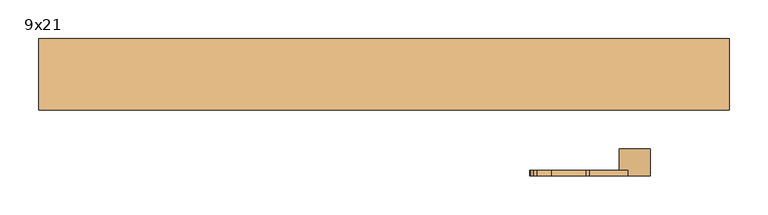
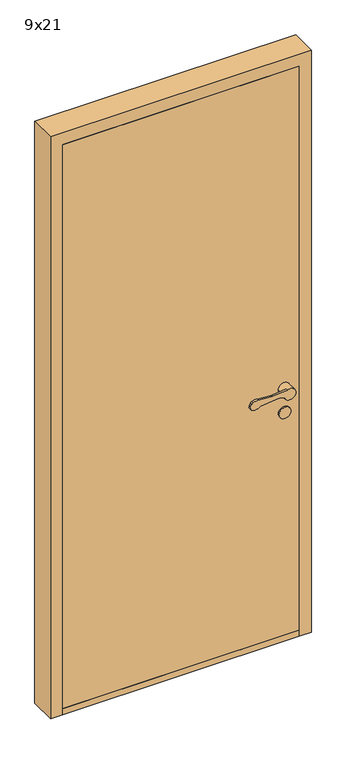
"""IFC4 building model written with IfcOpenShell, lengths in millimetres: door geometry, Innerdør Slett (Diplomat) : 9x21."""

from ifc_helpers import new_model, si_unit, point, frame, frame_2d, origin, origin_with_axes, place, context, project, spatial, polyline, circle_curve, trimmed, segment, composite_curve, outline, extrude, source, transform, mapped, element, save
from ifc_brep_helpers import plane_surface, cylinder_surface, revolved_surface, advanced_brep


def door_9x21_24ee06e7(model_context):
    return source(origin(), model_context, "Body", "SolidModel", [
        advanced_brep(
        [(343.9611305, 70.0, 949.1175955), (338.8520664, 70.0, 949.9496913), (276.0476109, 70.0, 943.6260011), (246.721536, 70.0, 938.7393398), (241.8691983, 70.0, 951.8913379), (245.505009, 70.0, 959.9624074), (250.3175669, 70.0, 964.8810513), (268.8963175, 70.0, 967.2639242), (313.6202158, 70.0, 964.1804415), (318.6891233, 70.0, 964.26032), (367.2687793, 70.0, 969.1517356), (396.379633, 70.0, 951.3474568), (358.3841161, 70.0, 942.6204086), (318.6891233, 62.8915284, 964.26032), (313.6202158, 62.8915284, 964.1804415), (268.8963175, 62.8915284, 967.2639242), (250.3175669, 62.8915284, 964.8810513), (245.505009, 62.8915284, 959.9624074), (241.8691983, 62.8915284, 951.8913379), (246.721536, 62.8915284, 938.7393398), (276.0476109, 62.8915284, 943.6260011), (338.8520664, 62.8915284, 949.9496913), (343.9611305, 62.8915284, 949.1175955), (358.3841161, 62.8915284, 942.6204086), (356.379633, 62.8915284, 951.3474568), (367.2687793, 62.8915284, 969.1517356), (396.379633, 35.0, 951.3474568), (356.379633, 35.0, 951.3474568)],
        [
            (0, 1, circle_curve(frame((339.8538865, 70.0, 940.0), z_axis=(0.0, -1.0, 0.0), x_axis=(-0.9949691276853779, 0.0, -0.10018200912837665)), 10.0)),
            (1, 2),
            (2, 3, circle_curve(frame((257.8569644, 70.0, 962.352734), z_axis=(0.0, 1.0, 0.0), x_axis=(-0.9949691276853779, 0.0, -0.10018200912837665)), 26.1072815)),
            (3, 4, circle_curve(frame((250.9867937, 70.0, 947.7840939), z_axis=(0.0, 1.0, 0.0), x_axis=(-0.9949691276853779, 0.0, -0.10018200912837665)), 10.0)),
            (4, 5),
            (5, 6, circle_curve(frame((254.6226045, 70.0, 955.8551634), z_axis=(0.0, 1.0, 0.0), x_axis=(-0.9949691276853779, 0.0, -0.10018200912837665)), 10.0)),
            (6, 7, circle_curve(frame((263.2326797, 70.0, 937.8033877), z_axis=(0.0, 1.0, 0.0), x_axis=(-0.9949691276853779, 0.0, -0.10018200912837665)), 30.0)),
            (7, 8),
            (8, 9, circle_curve(frame((315.683663, 70.0, 994.1093938), z_axis=(0.0, -1.0, 0.0), x_axis=(-0.9949691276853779, 0.0, -0.10018200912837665)), 30.0)),
            (9, 10),
            (10, 11, circle_curve(frame((376.379633, 70.0, 951.3474568), z_axis=(0.0, 1.0, 0.0), x_axis=(-1.0, 0.0, 0.0)), 20.0)),
            (11, 12, circle_curve(frame((376.379633, 70.0, 951.3474568), z_axis=(0.0, 1.0, 0.0), x_axis=(-1.0, 0.0, 0.0)), 20.0)),
            (12, 0),
            (13, 14, circle_curve(frame((315.683663, 62.8915284, 994.1093938), z_axis=(0.0, 1.0, 0.0), x_axis=(-0.9949691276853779, 0.0, -0.10018200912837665)), 30.0)),
            (14, 15),
            (15, 16, circle_curve(frame((263.2326797, 62.8915284, 937.8033877), z_axis=(0.0, -1.0, 0.0), x_axis=(-0.9949691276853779, 0.0, -0.10018200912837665)), 30.0)),
            (16, 17, circle_curve(frame((254.6226045, 62.8915284, 955.8551634), z_axis=(0.0, -1.0, 0.0), x_axis=(-0.9949691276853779, 0.0, -0.10018200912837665)), 10.0)),
            (17, 18),
            (18, 19, circle_curve(frame((250.9867937, 62.8915284, 947.7840939), z_axis=(0.0, -1.0, 0.0), x_axis=(-0.9949691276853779, 0.0, -0.10018200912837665)), 10.0)),
            (19, 20, circle_curve(frame((257.8569644, 62.8915284, 962.352734), z_axis=(0.0, -1.0, 0.0), x_axis=(-0.9949691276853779, 0.0, -0.10018200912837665)), 26.1072815)),
            (20, 21),
            (21, 22, circle_curve(frame((339.8538865, 62.8915284, 940.0), z_axis=(0.0, 1.0, 0.0), x_axis=(-0.9949691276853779, 0.0, -0.10018200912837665)), 10.0)),
            (22, 23),
            (23, 24, circle_curve(frame((376.379633, 62.8915284, 951.3474568), z_axis=(0.0, 1.0, 0.0), x_axis=(-1.0, 0.0, 0.0)), 20.0)),
            (24, 25, circle_curve(frame((376.379633, 62.8915284, 951.3474568), z_axis=(0.0, 1.0, 0.0), x_axis=(-1.0, 0.0, 0.0)), 20.0)),
            (25, 13),
            (9, 13),
            (25, 10),
            (22, 0),
            (12, 23),
            (21, 1),
            (20, 2),
            (19, 3),
            (18, 4),
            (17, 5),
            (16, 6),
            (15, 7),
            (14, 8),
            (26, 27, circle_curve(frame((376.379633, 35.0, 951.3474568), z_axis=(0.0, -1.0, 0.0), x_axis=(-1.0, 0.0, 0.0)), 20.0)),
            (27, 26, circle_curve(frame((376.379633, 35.0, 951.3474568), z_axis=(0.0, -1.0, 0.0), x_axis=(-1.0, 0.0, 0.0)), 20.0)),
            (27, 24),
            (11, 26),
        ],
        [
            plane_surface(frame((367.6960588, 70.0, 969.1947577), z_axis=(0.0, 1.0000000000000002, 0.0), x_axis=(0.9949691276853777, 0.0, 0.10018200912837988))),
            plane_surface(frame((367.6960588, 62.8915284, 969.1947577), z_axis=(0.0, -1.0000000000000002, 0.0), x_axis=(-0.9949691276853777, 0.0, -0.10018200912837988))),
            plane_surface(frame((318.6891233, 70.0, 964.26032), z_axis=(-0.10018200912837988, 0.0, 0.9949691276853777), x_axis=(0.0, -1.0, 0.0))),
            plane_surface(frame((376.9687366, 70.0, 934.2485115), z_axis=(-0.41072439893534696, 0.0, -0.91175954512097), x_axis=(0.0, -1.0, 0.0))),
            revolved_surface(polyline([(329.9041952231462, 62.8915284, 938.9981799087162), (329.9041952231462, 70.0, 938.9981799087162)]), (339.8538865, 62.8915284, 940.0), (0.0, -1.0, 0.0)),
            plane_surface(frame((338.8520664, 70.0, 949.9496913), z_axis=(0.10018200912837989, 0.0, -0.9949691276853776), x_axis=(0.0, -1.0, 0.0))),
            cylinder_surface(frame((257.8569644, 62.8915284, 962.352734), z_axis=(0.0, 1.0, 0.0), x_axis=(-0.9949691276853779, 0.0, -0.10018200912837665)), 26.1072815),
            cylinder_surface(frame((250.9867937, 62.8915284, 947.7840939), z_axis=(0.0, 1.0, 0.0), x_axis=(-0.9949691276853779, 0.0, -0.10018200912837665)), 10.0),
            plane_surface(frame((241.8691983, 70.0, 951.8913379), z_axis=(-0.9117595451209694, 0.0, 0.41072439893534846), x_axis=(0.0, -1.0, 0.0))),
            cylinder_surface(frame((254.6226045, 62.8915284, 955.8551634), z_axis=(0.0, 1.0, 0.0), x_axis=(-0.9949691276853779, 0.0, -0.10018200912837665)), 10.0),
            cylinder_surface(frame((263.2326797, 62.8915284, 937.8033877), z_axis=(0.0, 1.0, 0.0), x_axis=(-0.9949691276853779, 0.0, -0.10018200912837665)), 30.0),
            plane_surface(frame((268.8963175, 70.0, 967.2639242), z_axis=(0.06878157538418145, 0.0, 0.9976317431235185), x_axis=(0.0, -1.0, 0.0))),
            revolved_surface(polyline([(285.8345891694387, 62.8915284, 991.1039335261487), (285.8345891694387, 70.0, 991.1039335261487)]), (315.683663, 62.8915284, 994.1093938), (0.0, -1.0, 0.0)),
            plane_surface(frame((356.379633, 35.0, 951.3474568), z_axis=(0.0, -1.0, 0.0), x_axis=(0.0, 0.0, -1.0))),
            cylinder_surface(frame((376.379633, 35.0, 951.3474568), z_axis=(0.0, 1.0, 0.0), x_axis=(-1.0, 0.0, 0.0)), 20.0),
        ],
        [
            (0, [[1, 2, 3, 4, 5, 6, 7, 8, 9, 10, 11, 12, 13]]),
            (1, [[14, 15, 16, 17, 18, 19, 20, 21, 22, 23, 24, 25, 26]]),
            (2, [[27, -26, 28, -10]]),
            (3, [[29, -13, 30, -23]]),
            (4, [[-1, -29, -22, 31]]),
            (5, [[-2, -31, -21, 32]]),
            (6, [[-3, -32, -20, 33]]),
            (7, [[-4, -33, -19, 34]]),
            (8, [[-5, -34, -18, 35]]),
            (9, [[-6, -35, -17, 36]]),
            (10, [[-7, -36, -16, 37]]),
            (11, [[-8, -37, -15, 38]]),
            (12, [[-9, -38, -14, -27]]),
            (13, [[39, 40]]),
            (14, [[-40, 41, -24, -30, -12, 42]]),
            (14, [[-39, -42, -11, -28, -25, -41]]),
        ],
    ),
        extrude(outline(composite_curve([segment(trimmed(circle_curve(frame_2d((866.3474568, 376.379633)), 20.0), [point((866.3474568, 396.379633))], [point((866.3474568, 356.379633))], False, "CARTESIAN"), True, "CONTINUOUS"), segment(trimmed(circle_curve(frame_2d((866.3474568, 376.379633)), 20.0), [point((866.3474568, 356.379633))], [point((866.3474568, 396.379633))], False, "CARTESIAN"), True, "CONTINUOUS")], self_intersect=False)), frame((0.0, 35.0, 0.0), z_axis=(0.0, 1.0, 0.0), x_axis=(0.0, 0.0, 1.0)), (0.0, 0.0, 1.0), 5.0),
        advanced_brep(
        [(343.9611305, -100.0, 949.1175955), (358.3841161, -100.0, 942.6204086), (396.379633, -100.0, 951.3474568), (367.2687793, -100.0, 969.1517356), (318.6891233, -100.0, 964.26032), (313.6202158, -100.0, 964.1804415), (268.8963175, -100.0, 967.2639242), (250.3175669, -100.0, 964.8810513), (245.505009, -100.0, 959.9624074), (241.8691983, -100.0, 951.8913379), (246.721536, -100.0, 938.7393398), (276.0476109, -100.0, 943.6260011), (338.8520664, -100.0, 949.9496913), (318.6891233, -92.8915284, 964.26032), (367.2687793, -92.8915284, 969.1517356), (356.379633, -92.8915284, 951.3474568), (358.3841161, -92.8915284, 942.6204086), (343.9611305, -92.8915284, 949.1175955), (338.8520664, -92.8915284, 949.9496913), (276.0476109, -92.8915284, 943.6260011), (246.721536, -92.8915284, 938.7393398), (241.8691983, -92.8915284, 951.8913379), (245.505009, -92.8915284, 959.9624074), (250.3175669, -92.8915284, 964.8810513), (268.8963175, -92.8915284, 967.2639242), (313.6202158, -92.8915284, 964.1804415), (396.379633, -65.0, 951.3474568), (356.379633, -65.0, 951.3474568)],
        [
            (0, 1),
            (1, 2, circle_curve(frame((376.379633, -100.0, 951.3474568), z_axis=(0.0, -1.0, 0.0), x_axis=(-1.0, 0.0, 0.0)), 20.0)),
            (2, 3, circle_curve(frame((376.379633, -100.0, 951.3474568), z_axis=(0.0, -1.0, 0.0), x_axis=(-1.0, 0.0, 0.0)), 20.0)),
            (3, 4),
            (4, 5, circle_curve(frame((315.683663, -100.0, 994.1093938), z_axis=(0.0, 1.0, 0.0), x_axis=(-0.9949691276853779, 0.0, -0.10018200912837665)), 30.0)),
            (5, 6),
            (6, 7, circle_curve(frame((263.2326797, -100.0, 937.8033877), z_axis=(0.0, -1.0, 0.0), x_axis=(-0.9949691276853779, 0.0, -0.10018200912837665)), 30.0)),
            (7, 8, circle_curve(frame((254.6226045, -100.0, 955.8551634), z_axis=(0.0, -1.0, 0.0), x_axis=(-0.9949691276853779, 0.0, -0.10018200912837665)), 10.0)),
            (8, 9),
            (9, 10, circle_curve(frame((250.9867937, -100.0, 947.7840939), z_axis=(0.0, -1.0, 0.0), x_axis=(-0.9949691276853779, 0.0, -0.10018200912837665)), 10.0)),
            (10, 11, circle_curve(frame((257.8569644, -100.0, 962.352734), z_axis=(0.0, -1.0, 0.0), x_axis=(-0.9949691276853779, 0.0, -0.10018200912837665)), 26.1072815)),
            (11, 12),
            (12, 0, circle_curve(frame((339.8538865, -100.0, 940.0), z_axis=(0.0, 1.0, 0.0), x_axis=(-0.9949691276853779, 0.0, -0.10018200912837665)), 10.0)),
            (13, 14),
            (14, 15, circle_curve(frame((376.379633, -92.8915284, 951.3474568), z_axis=(0.0, -1.0, 0.0), x_axis=(-1.0, 0.0, 0.0)), 20.0)),
            (15, 16, circle_curve(frame((376.379633, -92.8915284, 951.3474568), z_axis=(0.0, -1.0, 0.0), x_axis=(-1.0, 0.0, 0.0)), 20.0)),
            (16, 17),
            (17, 18, circle_curve(frame((339.8538865, -92.8915284, 940.0), z_axis=(0.0, -1.0, 0.0), x_axis=(-0.9949691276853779, 0.0, -0.10018200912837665)), 10.0)),
            (18, 19),
            (19, 20, circle_curve(frame((257.8569644, -92.8915284, 962.352734), z_axis=(0.0, 1.0, 0.0), x_axis=(-0.9949691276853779, 0.0, -0.10018200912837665)), 26.1072815)),
            (20, 21, circle_curve(frame((250.9867937, -92.8915284, 947.7840939), z_axis=(0.0, 1.0, 0.0), x_axis=(-0.9949691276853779, 0.0, -0.10018200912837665)), 10.0)),
            (21, 22),
            (22, 23, circle_curve(frame((254.6226045, -92.8915284, 955.8551634), z_axis=(0.0, 1.0, 0.0), x_axis=(-0.9949691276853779, 0.0, -0.10018200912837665)), 10.0)),
            (23, 24, circle_curve(frame((263.2326797, -92.8915284, 937.8033877), z_axis=(0.0, 1.0, 0.0), x_axis=(-0.9949691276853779, 0.0, -0.10018200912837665)), 30.0)),
            (24, 25),
            (25, 13, circle_curve(frame((315.683663, -92.8915284, 994.1093938), z_axis=(0.0, -1.0, 0.0), x_axis=(-0.9949691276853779, 0.0, -0.10018200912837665)), 30.0)),
            (3, 14),
            (13, 4),
            (16, 1),
            (0, 17),
            (12, 18),
            (11, 19),
            (10, 20),
            (9, 21),
            (8, 22),
            (7, 23),
            (6, 24),
            (5, 25),
            (26, 27, circle_curve(frame((376.379633, -65.0, 951.3474568), z_axis=(0.0, 1.0, 0.0), x_axis=(-1.0, 0.0, 0.0)), 20.0)),
            (27, 26, circle_curve(frame((376.379633, -65.0, 951.3474568), z_axis=(0.0, 1.0, 0.0), x_axis=(-1.0, 0.0, 0.0)), 20.0)),
            (26, 2),
            (15, 27),
        ],
        [
            plane_surface(frame((367.6960588, -100.0, 969.1947577), z_axis=(0.0, -1.0000000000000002, 0.0), x_axis=(0.9949691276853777, 0.0, 0.10018200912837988))),
            plane_surface(frame((367.6960588, -92.8915284, 969.1947577), z_axis=(0.0, 1.0000000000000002, 0.0), x_axis=(-0.9949691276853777, 0.0, -0.10018200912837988))),
            plane_surface(frame((318.6891233, -100.0, 964.26032), z_axis=(-0.10018200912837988, 0.0, 0.9949691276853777), x_axis=(0.0, 1.0, 0.0))),
            plane_surface(frame((376.9687366, -100.0, 934.2485115), z_axis=(-0.41072439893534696, 0.0, -0.91175954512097), x_axis=(0.0, 1.0, 0.0))),
            revolved_surface(polyline([(329.9041952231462, -92.8915284, 938.9981799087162), (329.9041952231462, -100.0, 938.9981799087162)]), (339.8538865, -92.8915284, 940.0), (0.0, 1.0, 0.0)),
            plane_surface(frame((338.8520664, -100.0, 949.9496913), z_axis=(0.10018200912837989, 0.0, -0.9949691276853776), x_axis=(0.0, 1.0, 0.0))),
            cylinder_surface(frame((257.8569644, -92.8915284, 962.352734), z_axis=(0.0, -1.0, 0.0), x_axis=(-0.9949691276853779, 0.0, -0.10018200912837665)), 26.1072815),
            cylinder_surface(frame((250.9867937, -92.8915284, 947.7840939), z_axis=(0.0, -1.0, 0.0), x_axis=(-0.9949691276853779, 0.0, -0.10018200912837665)), 10.0),
            plane_surface(frame((241.8691983, -100.0, 951.8913379), z_axis=(-0.9117595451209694, 0.0, 0.41072439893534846), x_axis=(0.0, 1.0, 0.0))),
            cylinder_surface(frame((254.6226045, -92.8915284, 955.8551634), z_axis=(0.0, -1.0, 0.0), x_axis=(-0.9949691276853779, 0.0, -0.10018200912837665)), 10.0),
            cylinder_surface(frame((263.2326797, -92.8915284, 937.8033877), z_axis=(0.0, -1.0, 0.0), x_axis=(-0.9949691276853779, 0.0, -0.10018200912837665)), 30.0),
            plane_surface(frame((268.8963175, -100.0, 967.2639242), z_axis=(0.06878157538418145, 0.0, 0.9976317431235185), x_axis=(0.0, 1.0, 0.0))),
            revolved_surface(polyline([(285.8345891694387, -92.8915284, 991.1039335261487), (285.8345891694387, -100.0, 991.1039335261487)]), (315.683663, -92.8915284, 994.1093938), (0.0, 1.0, 0.0)),
            plane_surface(frame((356.379633, -65.0, 951.3474568), z_axis=(0.0, 1.0, 0.0), x_axis=(0.0, 0.0, -1.0))),
            cylinder_surface(frame((376.379633, -65.0, 951.3474568), z_axis=(0.0, -1.0, 0.0), x_axis=(-1.0, 0.0, 0.0)), 20.0),
        ],
        [
            (0, [[1, 2, 3, 4, 5, 6, 7, 8, 9, 10, 11, 12, 13]]),
            (1, [[14, 15, 16, 17, 18, 19, 20, 21, 22, 23, 24, 25, 26]]),
            (2, [[-4, 27, -14, 28]]),
            (3, [[-17, 29, -1, 30]]),
            (4, [[31, -18, -30, -13]]),
            (5, [[32, -19, -31, -12]]),
            (6, [[33, -20, -32, -11]]),
            (7, [[34, -21, -33, -10]]),
            (8, [[35, -22, -34, -9]]),
            (9, [[36, -23, -35, -8]]),
            (10, [[37, -24, -36, -7]]),
            (11, [[38, -25, -37, -6]]),
            (12, [[-28, -26, -38, -5]]),
            (13, [[39, 40]]),
            (14, [[41, -2, -29, -16, 42, -39]]),
            (14, [[-42, -15, -27, -3, -41, -40]]),
        ],
    ),
        extrude(outline(composite_curve([segment(trimmed(circle_curve(frame_2d((866.3474568, 376.379633)), 20.0), [point((866.3474568, 396.379633))], [point((866.3474568, 356.379633))], False, "CARTESIAN"), True, "CONTINUOUS"), segment(trimmed(circle_curve(frame_2d((866.3474568, 376.379633)), 20.0), [point((866.3474568, 356.379633))], [point((866.3474568, 396.379633))], False, "CARTESIAN"), True, "CONTINUOUS")], self_intersect=False)), frame((0.0, -70.0, 0.0), z_axis=(0.0, 1.0, 0.0), x_axis=(0.0, 0.0, 1.0)), (0.0, 0.0, 1.0), 5.0),
        extrude(outline(polyline([(456.379633, 77.0), (456.379633, -15.0), (-349.620367, -15.0), (-349.620367, 77.0), (456.379633, 77.0)])), origin_with_axes(), (0.0, 0.0, 1.0), 22.0),
        extrude(outline(polyline([(456.379633, 35.0), (456.379633, -15.0), (-349.620367, -15.0), (-349.620367, 35.0), (456.379633, 35.0)])), frame((0.0, 0.0, 22.0), z_axis=(0.0, 0.0, 1.0), x_axis=(1.0, 0.0, 0.0)), (0.0, 0.0, 1.0), 2031.0),
        extrude(outline(polyline([(0.0, -349.620367), (2053.0, -349.620367), (2053.0, 456.379633), (0.0, 456.379633), (0.0, 498.379633), (2095.0, 498.379633), (2095.0, -391.620367), (0.0, -391.620367), (0.0, -349.620367)])), frame((0.0, -15.0, 0.0), z_axis=(0.0, 1.0, 0.0), x_axis=(0.0, 0.0, 1.0)), (0.0, 0.0, 1.0), 92.0),
    ])


if __name__ == "__main__":
    model = new_model("IFC4")
    model_context = context("Model", 3, world=origin())
    ifc_project = project(units=[si_unit("LENGTHUNIT", "METRE", prefix="MILLI")], contexts=[model_context])
    site = spatial("IfcSite", under=ifc_project)
    building = spatial("IfcBuilding", under=site)
    placement = place(None, origin())
    door_9x21_shape = door_9x21_24ee06e7(model_context)
    element("IfcDoor", 1, ObjectType="Innerdør Slett (Diplomat) : 9x21", at=placement, inside=building, context=model_context, shape_type="MappedRepresentation", body=[
        mapped(door_9x21_shape, transform((0.0, 0.0, 0.0), x_axis=(1.0, 0.0, 0.0), y_axis=(0.0, 1.0, 0.0), z_axis=(0.0, 0.0, 1.0))),
    ])
    save(model, "model.ifc")
